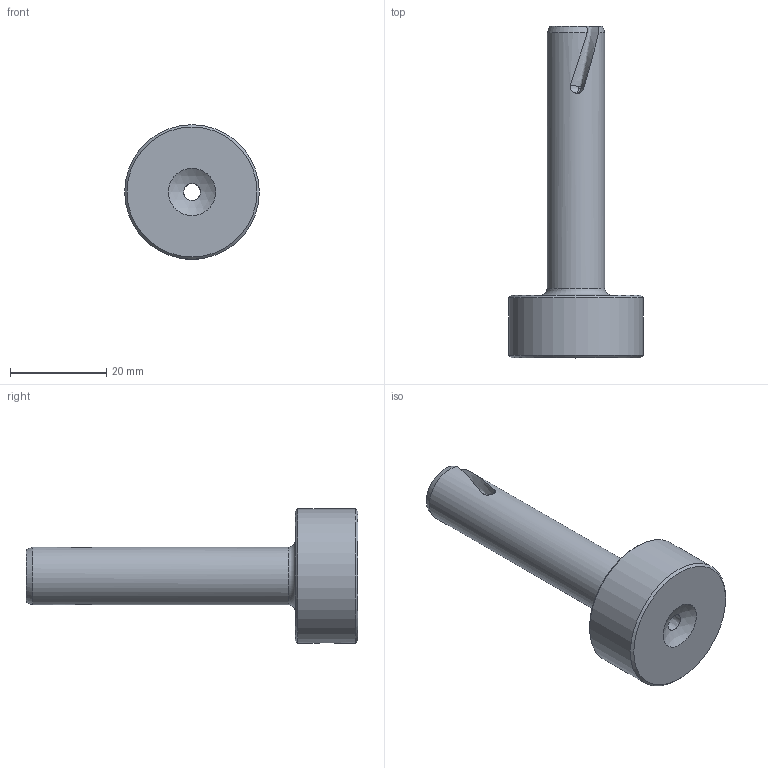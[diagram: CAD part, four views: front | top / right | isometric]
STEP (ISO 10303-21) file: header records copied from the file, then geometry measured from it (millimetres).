
FILE_DESCRIPTION (( 'STEP AP214' ), '1' );
FILE_NAME ('SB12.56.2.R1-2.STEP', '2023-03-14T08:38:59', ( '' ), ( '' ), 'SwSTEP 2.0', 'SolidWorks 2022', '' );
FILE_SCHEMA (( 'AUTOMOTIVE_DESIGN' ));
Length unit declared in the file: millimetre
Products named in the file (1): SB12.56.2.R1-2
Bounding box: 28 x 69 x 28 mm (x, y, z)
Volume: 12954.6 mm3; surface area: 5510.6 mm2
Topology: 1 solids, 1 shells, 35 faces, 96 edges, 61 vertices
Faces by surface type: bspline 17, cone 6, plane 5, cylinder 5, torus 1, sphere 1
Full cylindrical faces by diameter (mm): 4 x2, 12 x1, 28 x1
Entity records: 3255 total; most frequent: CARTESIAN_POINT 2608, ORIENTED_EDGE 150, EDGE_CURVE 75, DIRECTION 64, B_SPLINE_CURVE_WITH_KNOTS 61, VERTEX_POINT 55, EDGE_LOOP 48, FACE_OUTER_BOUND 40
